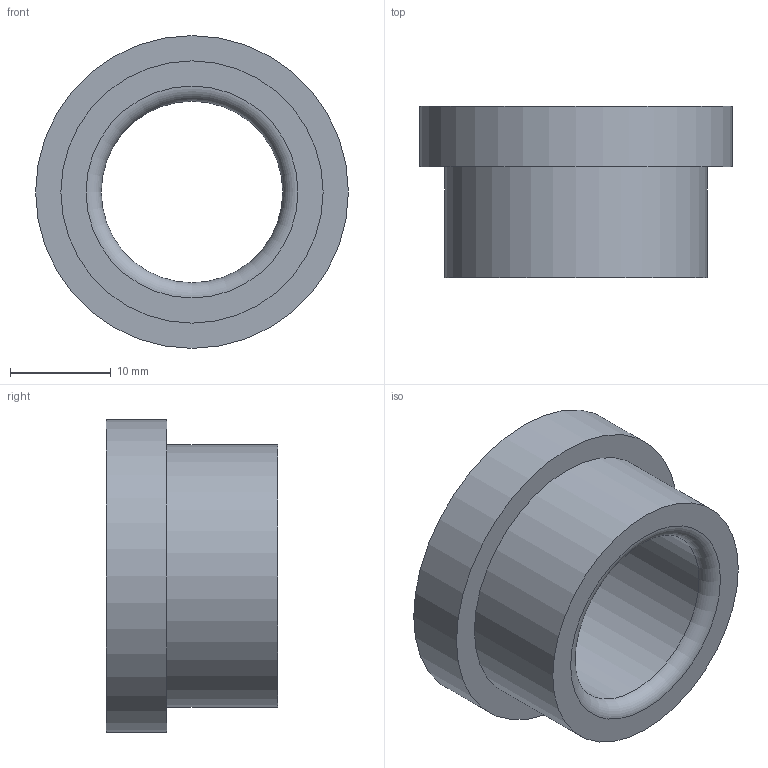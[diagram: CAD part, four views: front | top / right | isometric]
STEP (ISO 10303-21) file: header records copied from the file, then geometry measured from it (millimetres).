
FILE_DESCRIPTION(/* description */ ('STEP AP214'),/* implementation_level */ '2;1');
FILE_NAME(/* name */ '03_12_17915',/* time_stamp */ '2023-06-15T11:35:28+02:00',/* author */ ('License CC BY-ND 4.0'),/* organization */ ('CADENAS'),/* preprocessor_version */ 'ST-DEVELOPER v19.3',/* originating_system */ 'PARTsolutions',/* authorisation */ ' ');
FILE_SCHEMA (('AUTOMOTIVE_DESIGN {1 0 10303 214 3 1 1}'));
Length unit declared in the file: millimetre
Products named in the file (1): VA_Bushing_17915
Bounding box: 31 x 17 x 31 mm (x, y, z)
Volume: 5926.7 mm3; surface area: 3379.1 mm2
Topology: 1 solids, 1 shells, 10 faces, 16 edges, 10 vertices
Faces by surface type: cylinder 4, plane 4, torus 2
Full cylindrical faces by diameter (mm): 18 x1, 18.6 x1, 26 x1, 31 x1
Entity records: 302 total; most frequent: DIRECTION 42, CARTESIAN_POINT 31, AXIS2_PLACEMENT_3D 21, ORIENTED_EDGE 20, EDGE_LOOP 20, FACE_BOUND 20, EDGE_CURVE 10, VERTEX_POINT 10
